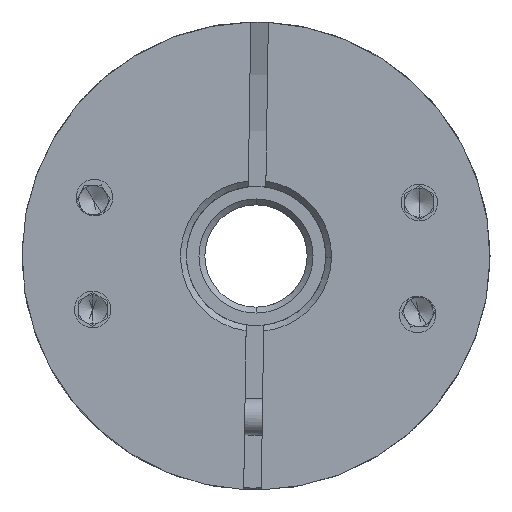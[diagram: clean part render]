
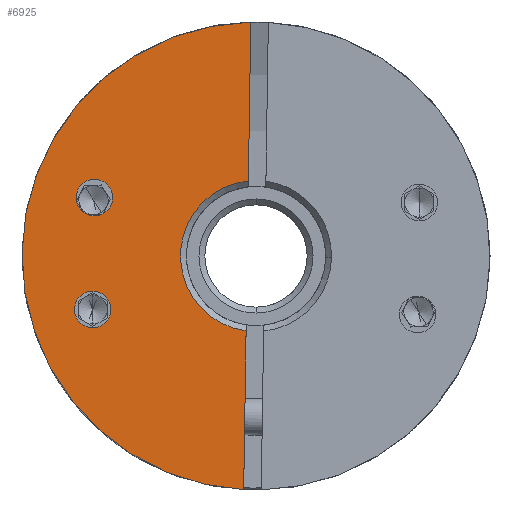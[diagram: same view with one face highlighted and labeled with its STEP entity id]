
A CAD part, front view. The second image highlights one B-rep face of the part: STEP entity #6925.
In plain terms, the highlighted planar face has unit normal (0, -1, 0).
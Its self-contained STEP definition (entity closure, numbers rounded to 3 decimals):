
#287 = AXIS2_PLACEMENT_3D ( 'NONE', #9908, #23003, #17487 ) ;
#729 = EDGE_CURVE ( 'NONE', #3004, #12994, #5039, .T. ) ;
#841 = CARTESIAN_POINT ( 'NONE',  ( -70.229, -19.411, 3.994 ) ) ;
#897 = EDGE_LOOP ( 'NONE', ( #8277, #22059 ) ) ;
#2010 = ORIENTED_EDGE ( 'NONE', *, *, #8676, .T. ) ;
#2205 = DIRECTION ( 'NONE',  ( 1., 0., -0.015 ) ) ;
#2393 = CIRCLE ( 'NONE', #2516, 5.162 ) ;
#2516 = AXIS2_PLACEMENT_3D ( 'NONE', #15156, #20971, #22859 ) ;
#2677 = CARTESIAN_POINT ( 'NONE',  ( -69.095, -19.411, -3.675 ) ) ;
#2786 = VECTOR ( 'NONE', #17934, 1000. ) ;
#2809 = EDGE_CURVE ( 'NONE', #16052, #7286, #13989, .T. ) ;
#3004 = VERTEX_POINT ( 'NONE', #16149 ) ;
#3316 = ORIENTED_EDGE ( 'NONE', *, *, #17606, .T. ) ;
#3416 = AXIS2_PLACEMENT_3D ( 'NONE', #841, #6481, #15979 ) ;
#5039 = LINE ( 'NONE', #18714, #19324 ) ;
#5712 = DIRECTION ( 'NONE',  ( 1., 0., -0.015 ) ) ;
#5719 = ORIENTED_EDGE ( 'NONE', *, *, #6352, .F. ) ;
#6352 = EDGE_CURVE ( 'NONE', #14021, #20036, #9528, .T. ) ;
#6481 = DIRECTION ( 'NONE',  ( 0., 1., 0. ) ) ;
#6502 = EDGE_LOOP ( 'NONE', ( #5719, #2010, #23348, #3316, #19267 ) ) ;
#6666 = ORIENTED_EDGE ( 'NONE', *, *, #22692, .T. ) ;
#6709 = CARTESIAN_POINT ( 'NONE',  ( -59.687, -19.411, 6.008 ) ) ;
#6908 = EDGE_CURVE ( 'NONE', #20888, #12132, #7177, .T. ) ;
#6925 = ADVANCED_FACE ( 'NONE', ( #10059, #22061, #10334 ), #17646, .T. ) ;
#7177 = CIRCLE ( 'NONE', #15265, 1.25 ) ;
#7286 = VERTEX_POINT ( 'NONE', #7707 ) ;
#7707 = CARTESIAN_POINT ( 'NONE',  ( -68.979, -19.411, 3.975 ) ) ;
#7921 = DIRECTION ( 'NONE',  ( 0., -1., 0. ) ) ;
#8277 = ORIENTED_EDGE ( 'NONE', *, *, #13910, .T. ) ;
#8609 = CARTESIAN_POINT ( 'NONE',  ( -70.229, -19.411, 3.994 ) ) ;
#8676 = EDGE_CURVE ( 'NONE', #14021, #12994, #2393, .T. ) ;
#9036 = AXIS2_PLACEMENT_3D ( 'NONE', #22425, #14949, #5712 ) ;
#9262 = DIRECTION ( 'NONE',  ( 0., -1., 0. ) ) ;
#9293 = EDGE_CURVE ( 'NONE', #14479, #20036, #22244, .T. ) ;
#9422 = CARTESIAN_POINT ( 'NONE',  ( -71.479, -19.411, 4.013 ) ) ;
#9528 = LINE ( 'NONE', #6709, #2786 ) ;
#9557 = CIRCLE ( 'NONE', #18151, 16. ) ;
#9908 = CARTESIAN_POINT ( 'NONE',  ( -59.178, -19.411, 0. ) ) ;
#9927 = CARTESIAN_POINT ( 'NONE',  ( -59.7, -19.411, 5.136 ) ) ;
#9991 = CARTESIAN_POINT ( 'NONE',  ( -60.021, -19.411, -15.978 ) ) ;
#10059 = FACE_OUTER_BOUND ( 'NONE', #6502, .T. ) ;
#10334 = FACE_BOUND ( 'NONE', #897, .T. ) ;
#11585 = AXIS2_PLACEMENT_3D ( 'NONE', #20448, #9262, #16745 ) ;
#12132 = VERTEX_POINT ( 'NONE', #18444 ) ;
#12994 = VERTEX_POINT ( 'NONE', #9927 ) ;
#13725 = CARTESIAN_POINT ( 'NONE',  ( -70.345, -19.411, -3.656 ) ) ;
#13910 = EDGE_CURVE ( 'NONE', #12132, #20888, #21996, .T. ) ;
#13989 = CIRCLE ( 'NONE', #15016, 1.25 ) ;
#14021 = VERTEX_POINT ( 'NONE', #16994 ) ;
#14479 = VERTEX_POINT ( 'NONE', #15731 ) ;
#14949 = DIRECTION ( 'NONE',  ( 0., 1., 0. ) ) ;
#15016 = AXIS2_PLACEMENT_3D ( 'NONE', #8609, #23721, #23807 ) ;
#15156 = CARTESIAN_POINT ( 'NONE',  ( -59.178, -19.411, 0. ) ) ;
#15265 = AXIS2_PLACEMENT_3D ( 'NONE', #13725, #15766, #15689 ) ;
#15689 = DIRECTION ( 'NONE',  ( 1., 0., -0.015 ) ) ;
#15731 = CARTESIAN_POINT ( 'NONE',  ( -75.176, -19.411, 0.243 ) ) ;
#15766 = DIRECTION ( 'NONE',  ( 0., 1., 0. ) ) ;
#15979 = DIRECTION ( 'NONE',  ( 1., 0., -0.015 ) ) ;
#16052 = VERTEX_POINT ( 'NONE', #9422 ) ;
#16149 = CARTESIAN_POINT ( 'NONE',  ( -59.535, -19.411, 15.996 ) ) ;
#16745 = DIRECTION ( 'NONE',  ( 1., 0., -0.015 ) ) ;
#16965 = CARTESIAN_POINT ( 'NONE',  ( -59.178, -19.411, 0. ) ) ;
#16994 = CARTESIAN_POINT ( 'NONE',  ( -59.856, -19.411, -5.118 ) ) ;
#17487 = DIRECTION ( 'NONE',  ( 1., 0., -0.015 ) ) ;
#17606 = EDGE_CURVE ( 'NONE', #3004, #14479, #9557, .T. ) ;
#17646 = PLANE ( 'NONE',  #287 ) ;
#17934 = DIRECTION ( 'NONE',  ( -0.015, 0., -1. ) ) ;
#18151 = AXIS2_PLACEMENT_3D ( 'NONE', #16965, #7921, #2205 ) ;
#18444 = CARTESIAN_POINT ( 'NONE',  ( -71.595, -19.411, -3.637 ) ) ;
#18714 = CARTESIAN_POINT ( 'NONE',  ( -59.687, -19.411, 6.008 ) ) ;
#19267 = ORIENTED_EDGE ( 'NONE', *, *, #9293, .T. ) ;
#19324 = VECTOR ( 'NONE', #22508, 1000. ) ;
#19754 = ORIENTED_EDGE ( 'NONE', *, *, #2809, .T. ) ;
#20036 = VERTEX_POINT ( 'NONE', #9991 ) ;
#20448 = CARTESIAN_POINT ( 'NONE',  ( -59.178, -19.411, 0. ) ) ;
#20888 = VERTEX_POINT ( 'NONE', #2677 ) ;
#20971 = DIRECTION ( 'NONE',  ( 0., 1., 0. ) ) ;
#21724 = EDGE_LOOP ( 'NONE', ( #19754, #6666 ) ) ;
#21996 = CIRCLE ( 'NONE', #9036, 1.25 ) ;
#22059 = ORIENTED_EDGE ( 'NONE', *, *, #6908, .T. ) ;
#22061 = FACE_BOUND ( 'NONE', #21724, .T. ) ;
#22244 = CIRCLE ( 'NONE', #11585, 16. ) ;
#22391 = CIRCLE ( 'NONE', #3416, 1.25 ) ;
#22425 = CARTESIAN_POINT ( 'NONE',  ( -70.345, -19.411, -3.656 ) ) ;
#22508 = DIRECTION ( 'NONE',  ( -0.015, 0., -1. ) ) ;
#22692 = EDGE_CURVE ( 'NONE', #7286, #16052, #22391, .T. ) ;
#22859 = DIRECTION ( 'NONE',  ( 1., 0., -0.015 ) ) ;
#23003 = DIRECTION ( 'NONE',  ( 0., -1., 0. ) ) ;
#23348 = ORIENTED_EDGE ( 'NONE', *, *, #729, .F. ) ;
#23721 = DIRECTION ( 'NONE',  ( 0., 1., 0. ) ) ;
#23807 = DIRECTION ( 'NONE',  ( 1., 0., -0.015 ) ) ;
